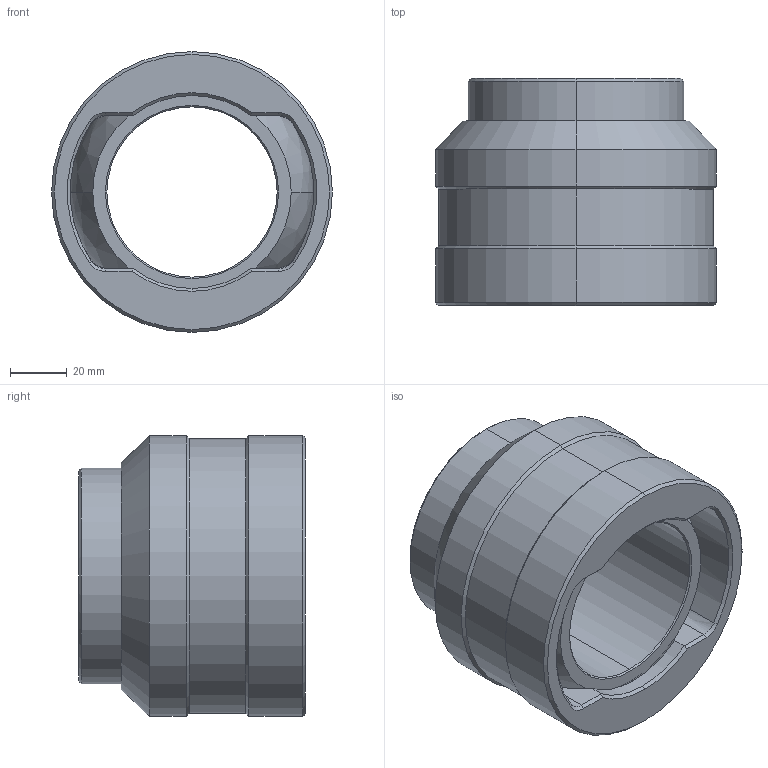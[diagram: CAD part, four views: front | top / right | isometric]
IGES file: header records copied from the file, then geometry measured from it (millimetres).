
Start section: 3D InterOp IGES (Version 20 0 1), Spatial Corp. Copyright (c) 1999-2007.
Global section: file name: 10.11.06.igs; native system: Spatial Corp.; preprocessor: 3D InterOp GENERIC/IGES 3.0; author: Noname; organization: Noname; date: 20111110.164014; units: metre
Bounding box: 99 x 80 x 99 mm (x, y, z)
Surface area: 73720.2 mm2 (no closed solid volume)
Topology: 0 solids, 0 shells, 67 faces, 871 edges, 1438 vertices
Faces by surface type: revolution 54, extrusion 13
